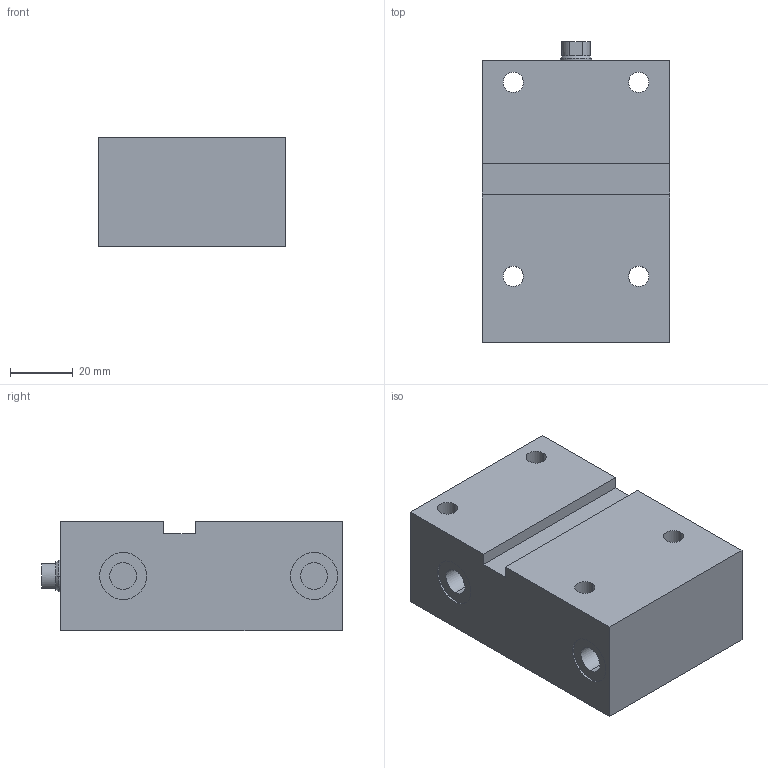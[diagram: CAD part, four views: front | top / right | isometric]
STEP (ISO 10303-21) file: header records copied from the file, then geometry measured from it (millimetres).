
FILE_DESCRIPTION (( 'STEP AP203' ), '1' );
FILE_NAME ('GERMA_Blockzylinder_601-016-050.STEP', '2015-07-16T12:23:42', ( '' ), ( '' ), 'SwSTEP 2.0', 'SolidWorks 2015', '' );
FILE_SCHEMA (( 'CONFIG_CONTROL_DESIGN' ));
Length unit declared in the file: millimetre
Products named in the file (3): GH-600-016_GH-601-016-050; Kolben 60x-016_Kolben DU.16-Hub50-IG; GERMA_Blockzylinder_601-016-050
Assembly tree (2 placements, depth 2):
  GERMA_Blockzylinder_601-016-050
    GH-600-016_GH-601-016-050
    Kolben 60x-016_Kolben DU.16-Hub50-IG
Bounding box: 60 x 96 x 35 mm (x, y, z)
Volume: 174096.1 mm3; surface area: 32545.3 mm2
Topology: 2 solids, 2 shells, 75 faces, 168 edges, 104 vertices
Faces by surface type: cylinder 35, plane 26, cone 14
Entity records: 2384 total; most frequent: DIRECTION 405, CARTESIAN_POINT 346, ORIENTED_EDGE 324, AXIS2_PLACEMENT_3D 163, EDGE_CURVE 162, VERTEX_POINT 104, EDGE_LOOP 96, CIRCLE 83
